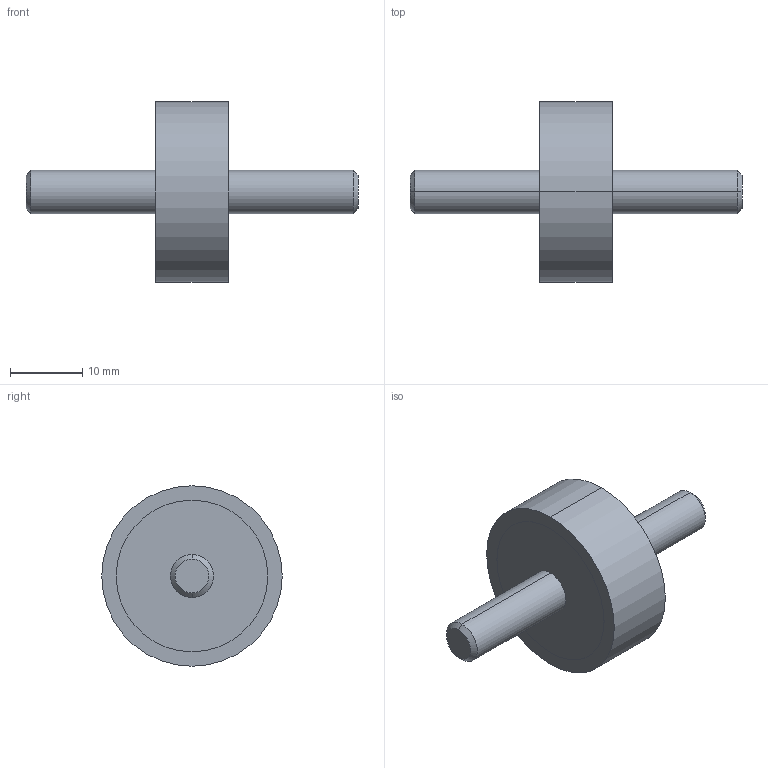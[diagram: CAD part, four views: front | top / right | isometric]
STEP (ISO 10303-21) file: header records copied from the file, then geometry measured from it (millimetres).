
FILE_DESCRIPTION (( 'STEP AP214' ), '1' );
FILE_NAME ('351-25-10-M6-SS-40.step', '2025-07-23T10:01:05', ( '' ), ( '' ), 'SwSTEP 2.0', 'SolidWorks 2022', '' );
FILE_SCHEMA (( 'AUTOMOTIVE_DESIGN' ));
Length unit declared in the file: millimetre
Products named in the file (1): 351-25-10-M6-SS-40
Bounding box: 46 x 25 x 25 mm (x, y, z)
Volume: 5912.9 mm3; surface area: 2432 mm2
Topology: 1 solids, 1 shells, 20 faces, 38 edges, 24 vertices
Faces by surface type: cylinder 10, plane 6, cone 4
Entity records: 636 total; most frequent: DIRECTION 104, CARTESIAN_POINT 83, ORIENTED_EDGE 76, AXIS2_PLACEMENT_3D 45, EDGE_CURVE 38, CIRCLE 24, EDGE_LOOP 24, VERTEX_POINT 24
